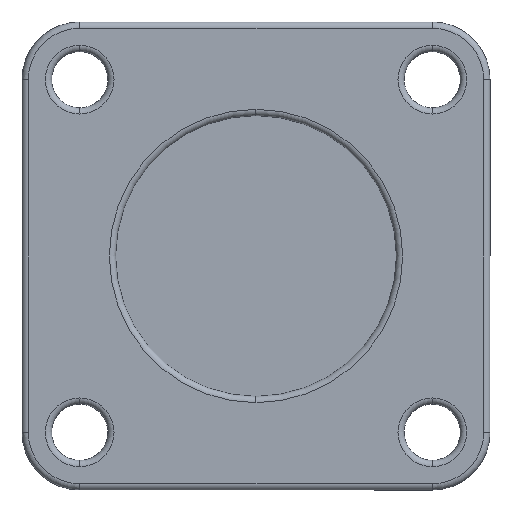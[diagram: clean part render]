
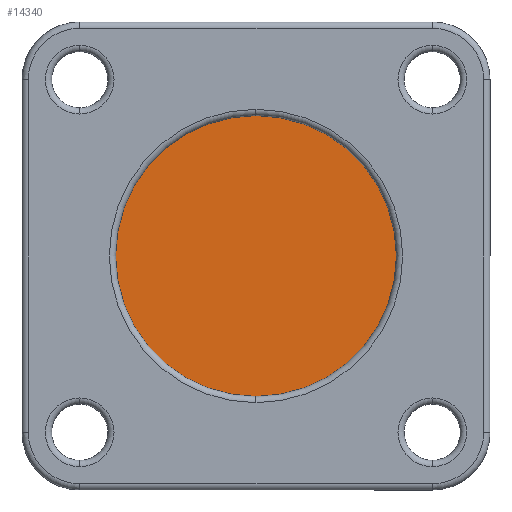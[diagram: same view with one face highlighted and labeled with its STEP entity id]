
A CAD part, front view. The second image highlights one B-rep face of the part: STEP entity #14340.
In plain terms, the highlighted planar face has unit normal (0, -1, 0).
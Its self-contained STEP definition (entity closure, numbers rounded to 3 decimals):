
#314 = EDGE_CURVE ( 'NONE', #8935, #9645, #13953, .T. ) ;
#930 = PLANE ( 'NONE',  #2233 ) ;
#2233 = AXIS2_PLACEMENT_3D ( 'NONE', #5399, #4248, #12476 ) ;
#2612 = FACE_OUTER_BOUND ( 'NONE', #8666, .T. ) ;
#4248 = DIRECTION ( 'NONE',  ( 0., -1., 0. ) ) ;
#5090 = EDGE_CURVE ( 'NONE', #9645, #8935, #7648, .T. ) ;
#5399 = CARTESIAN_POINT ( 'NONE',  ( 0., 5., 0. ) ) ;
#6105 = AXIS2_PLACEMENT_3D ( 'NONE', #8861, #6444, #9175 ) ;
#6406 = DIRECTION ( 'NONE',  ( 0., 0., -1. ) ) ;
#6444 = DIRECTION ( 'NONE',  ( 0., -1., 0. ) ) ;
#6448 = DIRECTION ( 'NONE',  ( 0., -1., 0. ) ) ;
#6503 = CARTESIAN_POINT ( 'NONE',  ( 0., 5., 0. ) ) ;
#6604 = CARTESIAN_POINT ( 'NONE',  ( 0., 5., 22.5 ) ) ;
#7648 = CIRCLE ( 'NONE', #13994, 22.5 ) ;
#8666 = EDGE_LOOP ( 'NONE', ( #12285, #13178 ) ) ;
#8861 = CARTESIAN_POINT ( 'NONE',  ( 0., 5., 0. ) ) ;
#8935 = VERTEX_POINT ( 'NONE', #6604 ) ;
#9175 = DIRECTION ( 'NONE',  ( 0., 0., -1. ) ) ;
#9645 = VERTEX_POINT ( 'NONE', #14460 ) ;
#12285 = ORIENTED_EDGE ( 'NONE', *, *, #5090, .T. ) ;
#12476 = DIRECTION ( 'NONE',  ( 0., 0., -1. ) ) ;
#13178 = ORIENTED_EDGE ( 'NONE', *, *, #314, .T. ) ;
#13953 = CIRCLE ( 'NONE', #6105, 22.5 ) ;
#13994 = AXIS2_PLACEMENT_3D ( 'NONE', #6503, #6448, #6406 ) ;
#14340 = ADVANCED_FACE ( 'NONE', ( #2612 ), #930, .T. ) ;
#14460 = CARTESIAN_POINT ( 'NONE',  ( 0., 5., -22.5 ) ) ;
